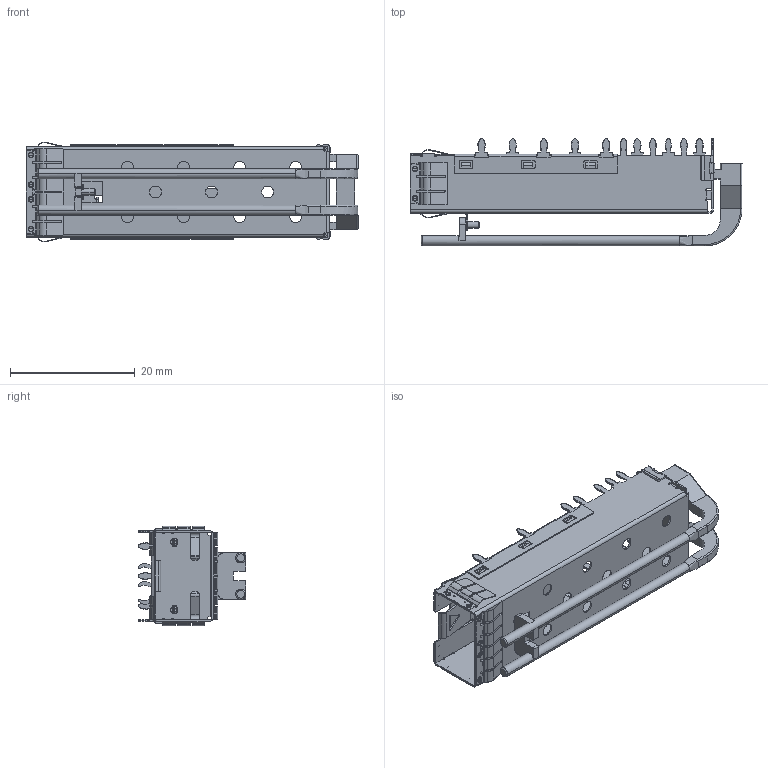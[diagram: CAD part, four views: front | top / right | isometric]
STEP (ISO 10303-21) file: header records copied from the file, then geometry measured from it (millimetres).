
FILE_DESCRIPTION (( 'STEP AP214' ), '1' );
FILE_NAME ('SS10-1011020000-0000-X.STEP', '2021-06-15T09:13:01', ( '' ), ( '' ), 'SwSTEP 2.0', 'SolidWorks 2012', '' );
FILE_SCHEMA (( 'AUTOMOTIVE_DESIGN' ));
Length unit declared in the file: millimetre
Products named in the file (7): SS20-S150_1x1-Side Spring Ass''y; SS20-S150_1x1-Bottom Spring ass''y; SB10-S120_Ground pin; SS20-S150_1x1-Top Spring Ass''y; SS10-1011020000-0000-X; SS40-P110_2Lightpipe; SB10-S110-1_pressfit2.25-Legs17-導光體支架-single
Assembly tree (7 placements, depth 2):
  SS10-1011020000-0000-X
    SB10-S110-1_pressfit2.25-Legs17-導光體支架-single
    SB10-S120_Ground pin
    SS20-S150_1x1-Top Spring Ass''y
    SS20-S150_1x1-Side Spring Ass''y  x2
    SS20-S150_1x1-Bottom Spring ass''y
    SS40-P110_2Lightpipe
Bounding box: 53.32 x 17.3 x 16 mm (x, y, z)
Volume: 1033.7 mm3; surface area: 6179.2 mm2
Topology: 7 solids, 7 shells, 1881 faces, 5032 edges, 3162 vertices
Faces by surface type: plane 935, cylinder 752, bspline 80, torus 64, sphere 48, cone 2
Entity records: 60959 total; most frequent: CARTESIAN_POINT 15987, ORIENTED_EDGE 9502, DIRECTION 9403, EDGE_CURVE 4751, AXIS2_PLACEMENT_3D 3288, VERTEX_POINT 2992, LINE 2827, VECTOR 2827
